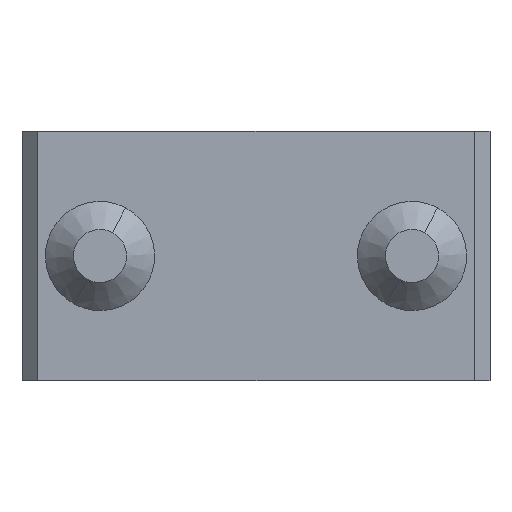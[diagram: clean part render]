
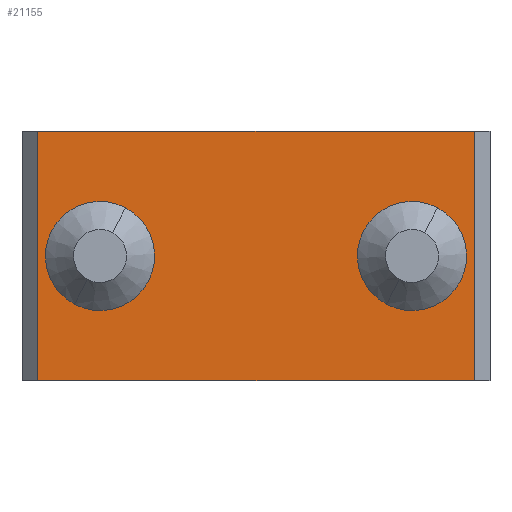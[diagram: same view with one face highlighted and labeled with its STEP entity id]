
A CAD part, front view. The second image highlights one B-rep face of the part: STEP entity #21155.
In plain terms, the highlighted planar face has unit normal (0, -1, 0).
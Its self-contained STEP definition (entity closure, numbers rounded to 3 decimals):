
#254 = VERTEX_POINT ( 'NONE', #6491 ) ;
#287 = AXIS2_PLACEMENT_3D ( 'NONE', #15509, #12199, #10505 ) ;
#311 = AXIS2_PLACEMENT_3D ( 'NONE', #11526, #14742, #16471 ) ;
#723 = EDGE_CURVE ( 'NONE', #15269, #3305, #6652, .T. ) ;
#747 = CARTESIAN_POINT ( 'NONE',  ( 22.412, 15.323, 8. ) ) ;
#953 = LINE ( 'NONE', #16765, #10086 ) ;
#1121 = VERTEX_POINT ( 'NONE', #14980 ) ;
#1903 = VERTEX_POINT ( 'NONE', #747 ) ;
#1991 = CARTESIAN_POINT ( 'NONE',  ( -5.588, 15.323, 5. ) ) ;
#1993 = VECTOR ( 'NONE', #6514, 1000. ) ;
#2279 = CARTESIAN_POINT ( 'NONE',  ( -1.588, 15.323, 3.25 ) ) ;
#2990 = FACE_BOUND ( 'NONE', #11106, .T. ) ;
#3305 = VERTEX_POINT ( 'NONE', #4265 ) ;
#3429 = CARTESIAN_POINT ( 'NONE',  ( -1.588, 15.323, 0. ) ) ;
#3595 = DIRECTION ( 'NONE',  ( 0., 0., 1. ) ) ;
#3612 = ORIENTED_EDGE ( 'NONE', *, *, #9281, .F. ) ;
#4264 = ORIENTED_EDGE ( 'NONE', *, *, #18358, .F. ) ;
#4265 = CARTESIAN_POINT ( 'NONE',  ( -5.588, 15.323, -8. ) ) ;
#4391 = EDGE_LOOP ( 'NONE', ( #21370, #3612 ) ) ;
#4675 = CIRCLE ( 'NONE', #10152, 3.25 ) ;
#4835 = DIRECTION ( 'NONE',  ( 0., 0., -1. ) ) ;
#5884 = CARTESIAN_POINT ( 'NONE',  ( 18.412, 15.323, -3.25 ) ) ;
#6319 = DIRECTION ( 'NONE',  ( 0., 0., -1. ) ) ;
#6491 = CARTESIAN_POINT ( 'NONE',  ( -1.588, 15.323, -3.25 ) ) ;
#6514 = DIRECTION ( 'NONE',  ( -1., 0., 0. ) ) ;
#6652 = LINE ( 'NONE', #8095, #15073 ) ;
#6705 = EDGE_LOOP ( 'NONE', ( #14462, #7008, #19013, #17000 ) ) ;
#7008 = ORIENTED_EDGE ( 'NONE', *, *, #723, .T. ) ;
#7045 = PLANE ( 'NONE',  #9272 ) ;
#7096 = CARTESIAN_POINT ( 'NONE',  ( 22.412, 15.323, 0. ) ) ;
#7245 = EDGE_CURVE ( 'NONE', #1121, #1903, #17018, .T. ) ;
#7489 = LINE ( 'NONE', #16628, #1993 ) ;
#7894 = CARTESIAN_POINT ( 'NONE',  ( 18.412, 15.323, 0. ) ) ;
#8095 = CARTESIAN_POINT ( 'NONE',  ( -5.588, 15.323, 0. ) ) ;
#8486 = DIRECTION ( 'NONE',  ( 0., -1., 0. ) ) ;
#9272 = AXIS2_PLACEMENT_3D ( 'NONE', #1991, #8486, #13726 ) ;
#9281 = EDGE_CURVE ( 'NONE', #12309, #18640, #4675, .T. ) ;
#9583 = CARTESIAN_POINT ( 'NONE',  ( 18.412, 15.323, 3.25 ) ) ;
#9922 = EDGE_CURVE ( 'NONE', #1903, #15269, #7489, .T. ) ;
#10086 = VECTOR ( 'NONE', #21841, 1000. ) ;
#10152 = AXIS2_PLACEMENT_3D ( 'NONE', #7894, #14689, #6319 ) ;
#10505 = DIRECTION ( 'NONE',  ( 0., 0., -1. ) ) ;
#11106 = EDGE_LOOP ( 'NONE', ( #14846, #4264 ) ) ;
#11329 = AXIS2_PLACEMENT_3D ( 'NONE', #3429, #16831, #11940 ) ;
#11526 = CARTESIAN_POINT ( 'NONE',  ( 18.412, 15.323, 0. ) ) ;
#11630 = CARTESIAN_POINT ( 'NONE',  ( -5.588, 15.323, 8. ) ) ;
#11940 = DIRECTION ( 'NONE',  ( 0., 0., -1. ) ) ;
#12085 = EDGE_CURVE ( 'NONE', #254, #21260, #14909, .T. ) ;
#12199 = DIRECTION ( 'NONE',  ( 0., -1., 0. ) ) ;
#12234 = VECTOR ( 'NONE', #3595, 1000. ) ;
#12309 = VERTEX_POINT ( 'NONE', #9583 ) ;
#12500 = EDGE_CURVE ( 'NONE', #3305, #1121, #953, .T. ) ;
#13469 = CIRCLE ( 'NONE', #311, 3.25 ) ;
#13726 = DIRECTION ( 'NONE',  ( 0., 0., -1. ) ) ;
#14028 = FACE_BOUND ( 'NONE', #4391, .T. ) ;
#14462 = ORIENTED_EDGE ( 'NONE', *, *, #9922, .T. ) ;
#14689 = DIRECTION ( 'NONE',  ( 0., -1., 0. ) ) ;
#14742 = DIRECTION ( 'NONE',  ( 0., -1., 0. ) ) ;
#14846 = ORIENTED_EDGE ( 'NONE', *, *, #12085, .F. ) ;
#14909 = CIRCLE ( 'NONE', #287, 3.25 ) ;
#14980 = CARTESIAN_POINT ( 'NONE',  ( 22.412, 15.323, -8. ) ) ;
#15073 = VECTOR ( 'NONE', #4835, 1000. ) ;
#15269 = VERTEX_POINT ( 'NONE', #11630 ) ;
#15509 = CARTESIAN_POINT ( 'NONE',  ( -1.588, 15.323, 0. ) ) ;
#15630 = FACE_OUTER_BOUND ( 'NONE', #6705, .T. ) ;
#16471 = DIRECTION ( 'NONE',  ( 0., 0., -1. ) ) ;
#16628 = CARTESIAN_POINT ( 'NONE',  ( 23.412, 15.323, 8. ) ) ;
#16765 = CARTESIAN_POINT ( 'NONE',  ( -6.588, 15.323, -8. ) ) ;
#16831 = DIRECTION ( 'NONE',  ( 0., -1., 0. ) ) ;
#17000 = ORIENTED_EDGE ( 'NONE', *, *, #7245, .T. ) ;
#17018 = LINE ( 'NONE', #7096, #12234 ) ;
#17132 = CIRCLE ( 'NONE', #11329, 3.25 ) ;
#18358 = EDGE_CURVE ( 'NONE', #21260, #254, #17132, .T. ) ;
#18640 = VERTEX_POINT ( 'NONE', #5884 ) ;
#19013 = ORIENTED_EDGE ( 'NONE', *, *, #12500, .T. ) ;
#21155 = ADVANCED_FACE ( 'NONE', ( #2990, #14028, #15630 ), #7045, .T. ) ;
#21260 = VERTEX_POINT ( 'NONE', #2279 ) ;
#21370 = ORIENTED_EDGE ( 'NONE', *, *, #21465, .F. ) ;
#21465 = EDGE_CURVE ( 'NONE', #18640, #12309, #13469, .T. ) ;
#21841 = DIRECTION ( 'NONE',  ( 1., 0., 0. ) ) ;
